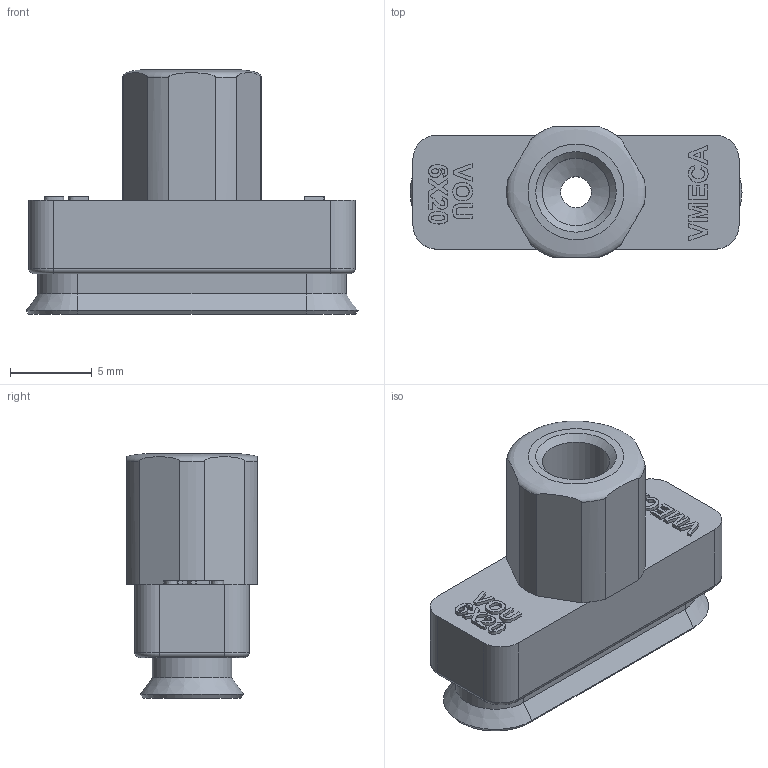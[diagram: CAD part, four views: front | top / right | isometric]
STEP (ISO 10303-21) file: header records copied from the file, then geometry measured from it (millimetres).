
FILE_DESCRIPTION( ( 'Unknown' ), '1' );
FILE_NAME( 'D:/New PAD/PAD-VOU/Part/STEP/VOU 6X20_M5F.stp', 'Unknown', ( 'Unknown' ), ( 'Unknown' ), 'XStep 1.0', 'Unknown', ' ' );
FILE_SCHEMA( ( 'automotive_design' ) );
Length unit declared in the file: millimetre
Products named in the file (1): 6X20_STP
Bounding box: 20.35 x 8 x 15 mm (x, y, z)
Volume: 1165.1 mm3; surface area: 1010.1 mm2
Topology: 1 solids, 1 shells, 155 faces, 385 edges, 250 vertices
Faces by surface type: extrusion 84, plane 40, cylinder 20, cone 6, torus 4, revolution 1
Full cylindrical faces by diameter (mm): 1.9 x1, 3 x1, 4.134 x2
Entity records: 6673 total; most frequent: CARTESIAN_POINT 1962, ORIENTED_EDGE 736, DIRECTION 545, EDGE_CURVE 368, VECTOR 296, VERTEX_POINT 245, LINE 212, EDGE_LOOP 187
